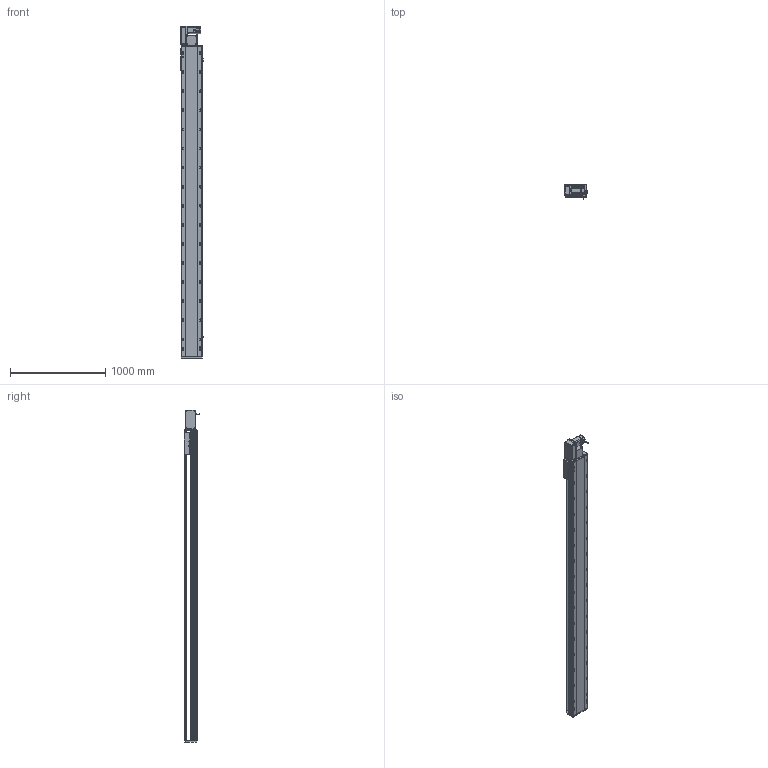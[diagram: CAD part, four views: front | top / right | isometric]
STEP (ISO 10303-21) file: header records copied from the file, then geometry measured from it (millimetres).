
FILE_DESCRIPTION (( 'STEP AP214' ), '1' );
FILE_NAME ('RTB22S-XX-2900-L-M75-C4.STEP', '2025-12-12T03:30:02', ( '' ), ( '' ), 'SwSTEP 2.0', 'SolidWorks 2018', '' );
FILE_SCHEMA (( 'AUTOMOTIVE_DESIGN' ));
Length unit declared in the file: millimetre
Products named in the file (14): 750W萇儂^RTB22S-XX-XX-L-M75-C4; RTB22S-L-々湍釱蚾饜^RTB22S-XX-XX-L-M75-C4; RTB22S-L-011菁釱^RTB22S-XX-XX-L-M75-C4; RTB22S-GY-014--々湍釱^RTB22S-L-々湍釱蚾饜_RTB22S-XX-XX-L-M75-C4; RTB22S-GY-018P^RTB22S-L-々湍釱蚾饜_RTB22S-XX-XX-L-M75-C4; RTB22S-GY-005P^RTB22S-L-々湍釱蚾饜_RTB22S-XX-XX-L-M75-C4; RTH22-GY-013外置感应片^RTB22S-XX-XX-L-M75-C4; RTB22S-XX-2900-L-M75-C4; RTB22S-GY-007奻裔^RTB22S-XX-XX-L-M75-C4; RTB22S-GY-001耜裔^RTB22S-XX-XX-L-M75-C4; OMRON EE-SX672 传感器^RTB22S-XX-XX-L-M75-C4; RTB22S-GY-017P^RTB22S-L-々湍釱蚾饜_RTB22S-XX-XX-L-M75-C4; RTB22S-GY-008-M75--萇儂啣^RTB22S-L-々湍釱蚾饜_RTB22S-XX-XX-L-M75-C4; RTB22S-L-004賑釱^RTB22S-XX-XX-L-M75-C4
Assembly tree (16 placements, depth 3):
  RTB22S-XX-2900-L-M75-C4
    RTB22S-L-011菁釱^RTB22S-XX-XX-L-M75-C4
    750W萇儂^RTB22S-XX-XX-L-M75-C4
    RTB22S-L-004賑釱^RTB22S-XX-XX-L-M75-C4
    OMRON EE-SX672 传感器^RTB22S-XX-XX-L-M75-C4  x3
    RTH22-GY-013外置感应片^RTB22S-XX-XX-L-M75-C4
    RTB22S-GY-007奻裔^RTB22S-XX-XX-L-M75-C4
    RTB22S-GY-001耜裔^RTB22S-XX-XX-L-M75-C4
    RTB22S-L-々湍釱蚾饜^RTB22S-XX-XX-L-M75-C4
      RTB22S-GY-014--々湍釱^RTB22S-L-々湍釱蚾饜_RTB22S-XX-XX-L-M75-C4
      RTB22S-GY-017P^RTB22S-L-々湍釱蚾饜_RTB22S-XX-XX-L-M75-C4  x2
      RTB22S-GY-005P^RTB22S-L-々湍釱蚾饜_RTB22S-XX-XX-L-M75-C4
      RTB22S-GY-008-M75--萇儂啣^RTB22S-L-々湍釱蚾饜_RTB22S-XX-XX-L-M75-C4
      RTB22S-GY-018P^RTB22S-L-々湍釱蚾饜_RTB22S-XX-XX-L-M75-C4
Bounding box: 238.5 x 162.7 x 3479 mm (x, y, z)
Volume: 43422599.3 mm3; surface area: 4430304.3 mm2
Topology: 15 solids, 15 shells, 2145 faces, 5836 edges, 3722 vertices
Faces by surface type: plane 933, cylinder 730, bspline 296, cone 174, sphere 8, torus 4
Entity records: 58690 total; most frequent: CARTESIAN_POINT 16504, ORIENTED_EDGE 8388, DIRECTION 8228, EDGE_CURVE 4194, AXIS2_PLACEMENT_3D 2962, VERTEX_POINT 2726, LINE 2304, VECTOR 2304
